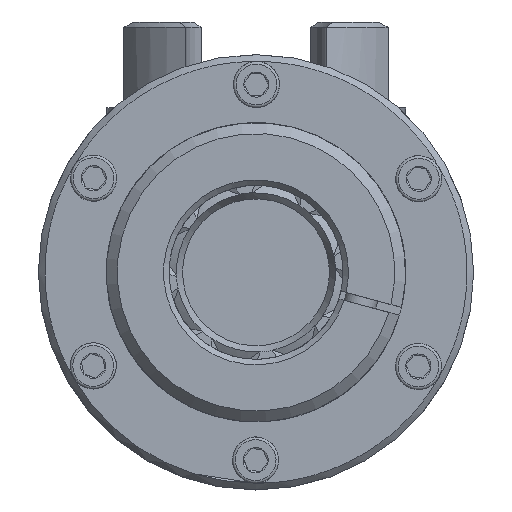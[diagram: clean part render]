
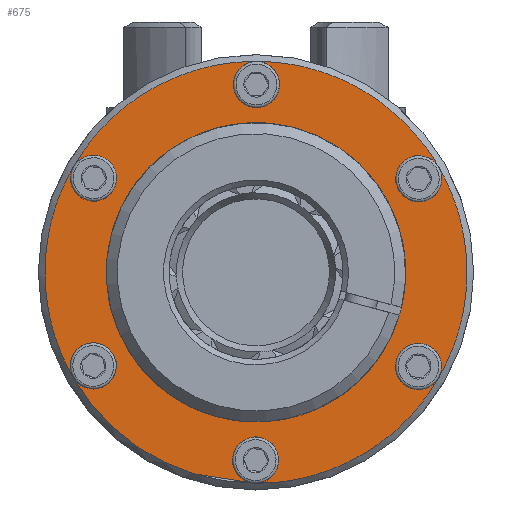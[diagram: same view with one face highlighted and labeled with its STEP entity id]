
A CAD part, left-side view. The second image highlights one B-rep face of the part: STEP entity #675.
In plain terms, the highlighted planar face has unit normal (-1, 0, 0).
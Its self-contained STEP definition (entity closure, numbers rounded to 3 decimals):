
#675 = ADVANCED_FACE( '', ( #1353, #1354 ), #1355, .F. );
#1353 = FACE_OUTER_BOUND( '', #2455, .T. );
#1354 = FACE_BOUND( '', #2456, .T. );
#1355 = PLANE( '', #2457 );
#2455 = EDGE_LOOP( '', ( #3832, #3833, #3834, #3835, #3836, #3837, #3838, #3839, #3840, #3841, #3842, #3843 ) );
#2456 = EDGE_LOOP( '', ( #3844 ) );
#2457 = AXIS2_PLACEMENT_3D( '', #3845, #3846, #3847 );
#3832 = ORIENTED_EDGE( '', *, *, #6509, .T. );
#3833 = ORIENTED_EDGE( '', *, *, #6502, .T. );
#3834 = ORIENTED_EDGE( '', *, *, #6510, .T. );
#3835 = ORIENTED_EDGE( '', *, *, #6501, .T. );
#3836 = ORIENTED_EDGE( '', *, *, #6507, .T. );
#3837 = ORIENTED_EDGE( '', *, *, #6506, .T. );
#3838 = ORIENTED_EDGE( '', *, *, #6511, .T. );
#3839 = ORIENTED_EDGE( '', *, *, #6505, .T. );
#3840 = ORIENTED_EDGE( '', *, *, #6512, .T. );
#3841 = ORIENTED_EDGE( '', *, *, #6504, .T. );
#3842 = ORIENTED_EDGE( '', *, *, #6513, .T. );
#3843 = ORIENTED_EDGE( '', *, *, #6503, .T. );
#3844 = ORIENTED_EDGE( '', *, *, #6514, .F. );
#3845 = CARTESIAN_POINT( '', ( -13.499, 40., 0. ) );
#3846 = DIRECTION( '', ( 1., 0., 0. ) );
#3847 = DIRECTION( '', ( 0., 1., 0. ) );
#6501 = EDGE_CURVE( '', #7479, #7480, #7481, .F. );
#6502 = EDGE_CURVE( '', #7482, #7479, #7483, .F. );
#6503 = EDGE_CURVE( '', #7484, #7482, #7485, .F. );
#6504 = EDGE_CURVE( '', #7486, #7484, #7487, .F. );
#6505 = EDGE_CURVE( '', #7488, #7486, #7489, .F. );
#6506 = EDGE_CURVE( '', #7480, #7488, #7490, .F. );
#6507 = EDGE_CURVE( '', #7480, #7480, #7491, .T. );
#6509 = EDGE_CURVE( '', #7482, #7482, #7494, .T. );
#6510 = EDGE_CURVE( '', #7479, #7479, #7495, .T. );
#6511 = EDGE_CURVE( '', #7488, #7488, #7496, .T. );
#6512 = EDGE_CURVE( '', #7486, #7486, #7497, .T. );
#6513 = EDGE_CURVE( '', #7484, #7484, #7498, .T. );
#6514 = EDGE_CURVE( '', #7499, #7499, #7500, .F. );
#7479 = VERTEX_POINT( '', #9201 );
#7480 = VERTEX_POINT( '', #9202 );
#7481 = CIRCLE( '', #9203, 38.75 );
#7482 = VERTEX_POINT( '', #9204 );
#7483 = CIRCLE( '', #9205, 38.75 );
#7484 = VERTEX_POINT( '', #9206 );
#7485 = CIRCLE( '', #9207, 38.75 );
#7486 = VERTEX_POINT( '', #9208 );
#7487 = CIRCLE( '', #9209, 38.75 );
#7488 = VERTEX_POINT( '', #9210 );
#7489 = CIRCLE( '', #9211, 38.75 );
#7490 = CIRCLE( '', #9212, 38.75 );
#7491 = CIRCLE( '', #9213, 4.25 );
#7494 = CIRCLE( '', #9216, 4.25 );
#7495 = CIRCLE( '', #9217, 4.25 );
#7496 = CIRCLE( '', #9218, 4.25 );
#7497 = CIRCLE( '', #9219, 4.25 );
#7498 = CIRCLE( '', #9220, 4.25 );
#7499 = VERTEX_POINT( '', #9221 );
#7500 = CIRCLE( '', #9222, 27.5 );
#9201 = CARTESIAN_POINT( '', ( -13.499, 33.558, 19.375 ) );
#9202 = CARTESIAN_POINT( '', ( -13.499, 33.558, -19.375 ) );
#9203 = AXIS2_PLACEMENT_3D( '', #11640, #11641, #11642 );
#9204 = CARTESIAN_POINT( '', ( -13.499, 0., 38.75 ) );
#9205 = AXIS2_PLACEMENT_3D( '', #11643, #11644, #11645 );
#9206 = CARTESIAN_POINT( '', ( -13.499, -33.558, 19.375 ) );
#9207 = AXIS2_PLACEMENT_3D( '', #11646, #11647, #11648 );
#9208 = CARTESIAN_POINT( '', ( -13.499, -33.558, -19.375 ) );
#9209 = AXIS2_PLACEMENT_3D( '', #11649, #11650, #11651 );
#9210 = CARTESIAN_POINT( '', ( -13.499, 0., -38.75 ) );
#9211 = AXIS2_PLACEMENT_3D( '', #11652, #11653, #11654 );
#9212 = AXIS2_PLACEMENT_3D( '', #11655, #11656, #11657 );
#9213 = AXIS2_PLACEMENT_3D( '', #11658, #11659, #11660 );
#9216 = AXIS2_PLACEMENT_3D( '', #11664, #11665, #11666 );
#9217 = AXIS2_PLACEMENT_3D( '', #11667, #11668, #11669 );
#9218 = AXIS2_PLACEMENT_3D( '', #11670, #11671, #11672 );
#9219 = AXIS2_PLACEMENT_3D( '', #11673, #11674, #11675 );
#9220 = AXIS2_PLACEMENT_3D( '', #11676, #11677, #11678 );
#9221 = CARTESIAN_POINT( '', ( -13.499, 0., -27.5 ) );
#9222 = AXIS2_PLACEMENT_3D( '', #11679, #11680, #11681 );
#11640 = CARTESIAN_POINT( '', ( -13.499, 0., 0. ) );
#11641 = DIRECTION( '', ( 1., 0., 0. ) );
#11642 = DIRECTION( '', ( 0., 0., -1. ) );
#11643 = CARTESIAN_POINT( '', ( -13.499, 0., 0. ) );
#11644 = DIRECTION( '', ( 1., 0., 0. ) );
#11645 = DIRECTION( '', ( 0., 0., -1. ) );
#11646 = CARTESIAN_POINT( '', ( -13.499, 0., 0. ) );
#11647 = DIRECTION( '', ( 1., 0., 0. ) );
#11648 = DIRECTION( '', ( 0., 0., -1. ) );
#11649 = CARTESIAN_POINT( '', ( -13.499, 0., 0. ) );
#11650 = DIRECTION( '', ( 1., 0., 0. ) );
#11651 = DIRECTION( '', ( 0., 0., -1. ) );
#11652 = CARTESIAN_POINT( '', ( -13.499, 0., 0. ) );
#11653 = DIRECTION( '', ( 1., 0., 0. ) );
#11654 = DIRECTION( '', ( 0., 0., -1. ) );
#11655 = CARTESIAN_POINT( '', ( -13.499, 0., 0. ) );
#11656 = DIRECTION( '', ( 1., 0., 0. ) );
#11657 = DIRECTION( '', ( 0., 0., -1. ) );
#11658 = CARTESIAN_POINT( '', ( -13.499, 29.878, -17.25 ) );
#11659 = DIRECTION( '', ( 1., 0., 0. ) );
#11660 = DIRECTION( '', ( 0., 0., -1. ) );
#11664 = CARTESIAN_POINT( '', ( -13.499, 0., 34.5 ) );
#11665 = DIRECTION( '', ( 1., 0., 0. ) );
#11666 = DIRECTION( '', ( 0., 0., -1. ) );
#11667 = CARTESIAN_POINT( '', ( -13.499, 29.878, 17.25 ) );
#11668 = DIRECTION( '', ( 1., 0., 0. ) );
#11669 = DIRECTION( '', ( 0., 0., -1. ) );
#11670 = CARTESIAN_POINT( '', ( -13.499, 0., -34.5 ) );
#11671 = DIRECTION( '', ( 1., 0., 0. ) );
#11672 = DIRECTION( '', ( 0., 0., -1. ) );
#11673 = CARTESIAN_POINT( '', ( -13.499, -29.878, -17.25 ) );
#11674 = DIRECTION( '', ( 1., 0., 0. ) );
#11675 = DIRECTION( '', ( 0., 0., -1. ) );
#11676 = CARTESIAN_POINT( '', ( -13.499, -29.878, 17.25 ) );
#11677 = DIRECTION( '', ( 1., 0., 0. ) );
#11678 = DIRECTION( '', ( 0., 0., -1. ) );
#11679 = CARTESIAN_POINT( '', ( -13.499, 0., 0. ) );
#11680 = DIRECTION( '', ( 1., 0., 0. ) );
#11681 = DIRECTION( '', ( 0., 0., -1. ) );
